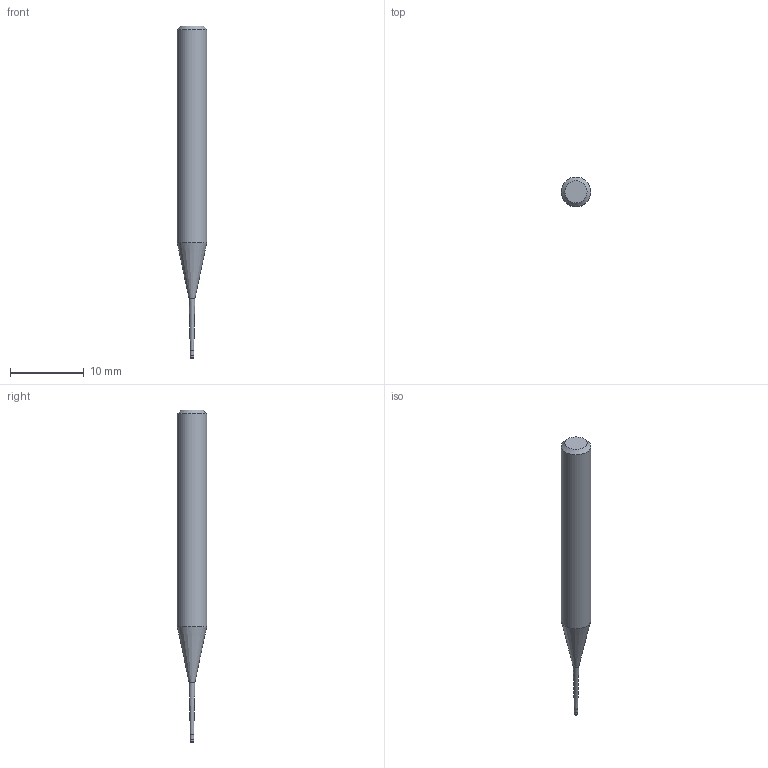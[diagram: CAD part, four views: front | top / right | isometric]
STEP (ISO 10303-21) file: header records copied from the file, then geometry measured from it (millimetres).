
FILE_DESCRIPTION((''),'2;1');
FILE_NAME('C:\Users\nsx150\AppData\Local\Temp\Mastercam 2021\YKS1SUSFZB\TEMP.step','2025-06-23T14:03:27',(''),(''),'STEP Write','Mastercam 2021 ... CNC Software, Inc.','');
FILE_SCHEMA(('AUTOMOTIVE_DESIGN'));
Length unit declared in the file: millimetre
Products named in the file (1): None
Bounding box: 4 x 4 x 45 mm (x, y, z)
Volume: 409.2 mm3; surface area: 451.7 mm2
Topology: 2 solids, 2 shells, 11 faces, 16 edges, 9 vertices
Faces by surface type: plane 4, cylinder 3, cone 3, torus 1
Full cylindrical faces by diameter (mm): 0.48 x1, 0.5 x1, 4 x1
Entity records: 253 total; most frequent: DIRECTION 44, CARTESIAN_POINT 31, AXIS2_PLACEMENT_3D 22, ORIENTED_EDGE 18, EDGE_LOOP 18, STYLED_ITEM 14, ADVANCED_FACE 11, FACE_BOUND 11
